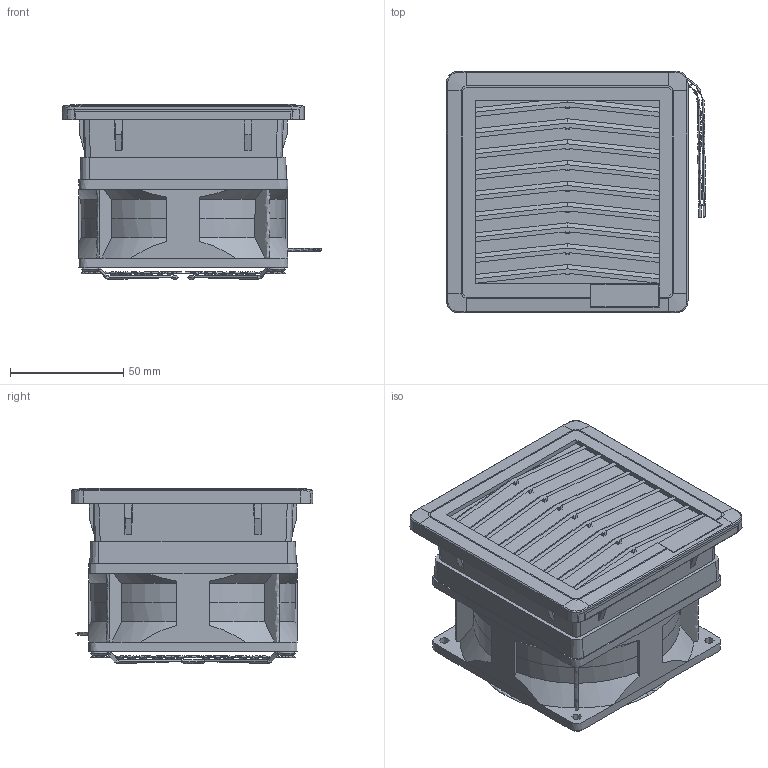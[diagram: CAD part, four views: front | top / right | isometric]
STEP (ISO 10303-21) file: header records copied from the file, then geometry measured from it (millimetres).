
FILE_DESCRIPTION(/* description */ (''),/* implementation_level */ '2;1');
FILE_NAME(/* name */ 'FF08GDxxyN',/* time_stamp */ '2025-10-30T11:36:58+01:00',/* author */ (''),/* organization */ (''),/* preprocessor_version */ 'ST-DEVELOPER v16.5',/* originating_system */ 'Rhino 7.38',/* authorisation */ '');
FILE_SCHEMA (('AUTOMOTIVE_DESIGN'));
Length unit declared in the file: millimetre
Products named in the file (8): Document; FF08GDxxyN_DT-01149DSI; DT-02377DSI_Semplificato; DT-00242DSI_Coperchio semplificato; DT-01001DSI_semplificata; DT-04082DSI_mostrina semplificata; FF08BGJ-xxxx_base semplificata; 92_Default<A macchina>
Assembly tree (7 placements, depth 3):
  Document
    FF08GDxxyN_DT-01149DSI
      DT-02377DSI_Semplificato
      DT-00242DSI_Coperchio semplificato
      DT-01001DSI_semplificata
      DT-04082DSI_mostrina semplificata
      FF08BGJ-xxxx_base semplificata
      92_Default<A macchina>
Bounding box: 114.3 x 106.54 x 77.2 mm (x, y, z)
Volume: 583309.9 mm3; surface area: 118149.7 mm2
Topology: 6 solids, 6 shells, 444 faces, 1215 edges, 793 vertices
Faces by surface type: plane 230, bspline 156, cylinder 58
Entity records: 24197 total; most frequent: CARTESIAN_POINT 16180, ORIENTED_EDGE 2430, EDGE_CURVE 1215, B_SPLINE_CURVE_WITH_KNOTS 821, VERTEX_POINT 793, EDGE_LOOP 516, ADVANCED_FACE 444, FACE_OUTER_BOUND 444
